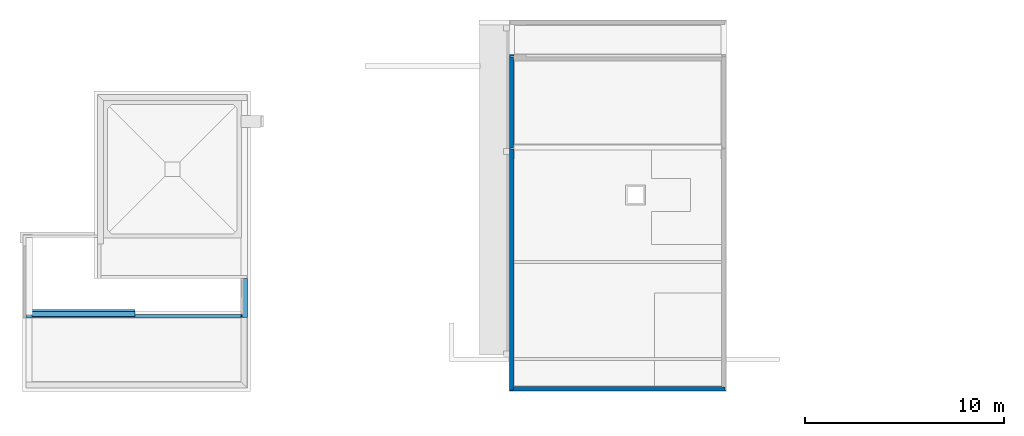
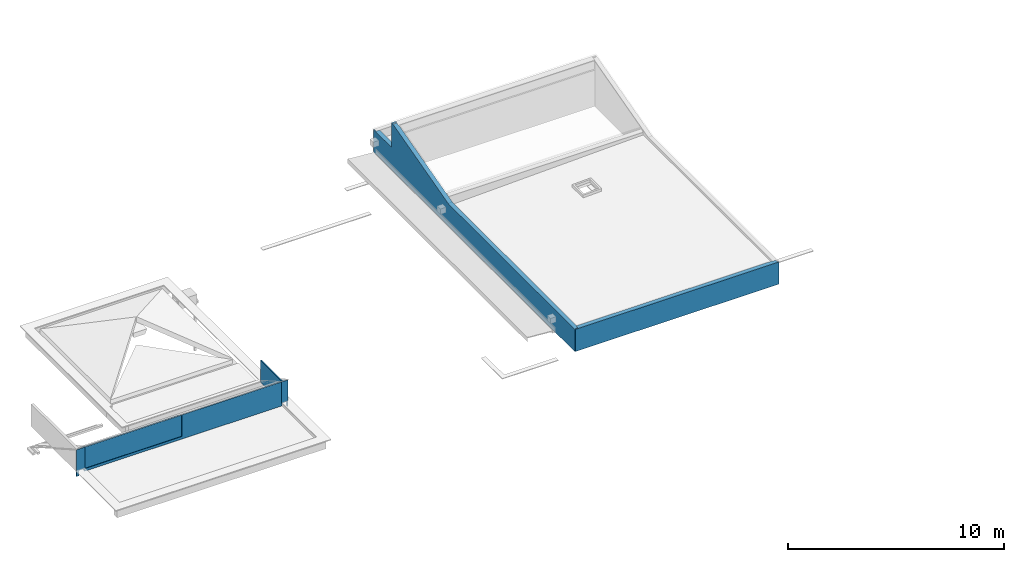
# One storey, part 4 of 8: 5 walls.
"""IFC2X3 building model written with IfcOpenShell, lengths in metres."""

import ifcopenshell
import ifcopenshell.guid

model = None  # the IFC model being written
_history = None  # IfcOwnerHistory: only IFC2X3 demands one
_inside = {}  # id of a spatial element -> (the spatial element, [elements in it])
_under = {}  # id of a project, library or spatial element -> (it, [spatial elements below it])
_declared = {}  # id of a project -> (the project, [libraries it declares])
_typed = {}  # id of a type object -> (the type object, [elements of that type])
_made_of = {}  # id of a material, layer set ... -> (it, [elements and type objects made of it])


def new_model(schema):
    """Start an empty IFC model of exactly this schema.

    Asked for "IFC4X3", IfcOpenShell would pick the latest addendum, in which some entities
    have other attributes; the version numbers below select the first issue.
    IFC2X3 requires an IfcOwnerHistory on every rooted entity: one is made here for all.
    """
    global model, _history
    if schema == "IFC4X3":
        model = ifcopenshell.file(schema_version=(4, 3, 0, 0))
    else:
        model = ifcopenshell.file(schema=schema)
    _inside.clear()
    _under.clear()
    _declared.clear()
    _typed.clear()
    _made_of.clear()
    _history = None
    if model.schema == "IFC2X3":
        org = make("IfcOrganization", Name="unknown")
        user = make(
            "IfcPersonAndOrganization",
            ThePerson=make("IfcPerson", FamilyName="unknown"),
            TheOrganization=org,
        )
        app = make(
            "IfcApplication",
            ApplicationDeveloper=org,
            Version="unknown",
            ApplicationFullName="unknown",
            ApplicationIdentifier="unknown",
        )
        _history = make(
            "IfcOwnerHistory",
            OwningUser=user,
            OwningApplication=app,
            ChangeAction="ADDED",
            CreationDate=0,
        )
    return model


def make(cls, **values):
    """One entity of the class cls with the attributes given. An attribute that is None is left unset."""
    return model.create_entity(
        cls, **{name: value for name, value in values.items() if value is not None}
    )


def entity(cls, *values):
    """Any entity or typed value of the class cls, its attributes in the order of the schema. None: left unset."""
    e = model.create_entity(cls)
    for i, value in enumerate(values):
        if value is not None:
            e[i] = value
    return e


def rooted(cls, **values):
    """An entity with a GlobalId (a new one), such as an element, a storey or a relation."""
    return make(cls, GlobalId=ifcopenshell.guid.new(), OwnerHistory=_history, **values)


def si_unit(unit_type, name, prefix=None):
    """IfcSIUnit, for example si_unit("LENGTHUNIT", "METRE", prefix="MILLI")."""
    return make("IfcSIUnit", UnitType=unit_type, Prefix=prefix, Name=name)


def converted_unit(unit_type, name, factor, base, dimensions=None, offset=None):
    """IfcConversionBasedUnit, such as the inch: factor (a typed value) times the base unit."""
    return make(
        "IfcConversionBasedUnit"
        if offset is None
        else "IfcConversionBasedUnitWithOffset",
        ConversionOffset=offset,
        Dimensions=None
        if dimensions is None
        else entity("IfcDimensionalExponents", *dimensions),
        UnitType=unit_type,
        Name=name,
        ConversionFactor=make(
            "IfcMeasureWithUnit", ValueComponent=factor, UnitComponent=base
        ),
    )


def derived_unit(unit_type, elements):
    """IfcDerivedUnit: a product of units, each with its exponent."""
    return make(
        "IfcDerivedUnit",
        Elements=[
            make("IfcDerivedUnitElement", Unit=unit, Exponent=power)
            for unit, power in elements
        ],
        UnitType=unit_type,
    )


def assignment(units):
    """IfcUnitAssignment: the units of a project."""
    return None if units is None else make("IfcUnitAssignment", Units=units)


def point(xyz):
    """IfcCartesianPoint."""
    return None if xyz is None else make("IfcCartesianPoint", Coordinates=xyz)


def direction(xyz):
    """IfcDirection."""
    return None if xyz is None else make("IfcDirection", DirectionRatios=xyz)


def frame(location, z_axis=None, x_axis=None):
    """IfcAxis2Placement3D, a coordinate frame: its origin and axes. An axis left out is left unset."""
    return make(
        "IfcAxis2Placement3D",
        Location=point(location),
        Axis=direction(z_axis),
        RefDirection=direction(x_axis),
    )


def origin():
    """The frame at (0, 0, 0) with its axes left unset."""
    return frame((0.0, 0.0, 0.0))


def place(relative_to, where):
    """IfcLocalPlacement: puts the frame where relative to a parent placement (None: the world)."""
    return make(
        "IfcLocalPlacement", PlacementRelTo=relative_to, RelativePlacement=where
    )


def context(
    kind, dimensions, precision=None, world=None, true_north=None, identifier=None
):
    """IfcGeometricRepresentationContext, for example the 3D "Model" context."""
    return make(
        "IfcGeometricRepresentationContext",
        ContextIdentifier=identifier,
        ContextType=kind,
        CoordinateSpaceDimension=dimensions,
        Precision=precision,
        WorldCoordinateSystem=world,
        TrueNorth=true_north,
    )


def subcontext(parent, identifier, kind, view, scale=None):
    """IfcGeometricRepresentationSubContext, for example "Body" below "Model"."""
    return make(
        "IfcGeometricRepresentationSubContext",
        ContextIdentifier=identifier,
        ContextType=kind,
        ParentContext=parent,
        TargetScale=scale,
        TargetView=view,
    )


def project(units=None, contexts=None):
    """IfcProject with its units and contexts."""
    return rooted(
        "IfcProject",
        Name="project",
        RepresentationContexts=contexts,
        UnitsInContext=assignment(units),
    )


def spatial(cls, under=None, at=None, **own):
    """A site, building, storey or space (cls), placed at a placement, below another one or the project."""
    s = rooted(cls, ObjectPlacement=at, **own)
    if under is not None:
        _under.setdefault(under.id(), (under, []))[1].append(s)
    return s


def faces_of(points, faces, orient=None, outer=None):
    """IfcFace entities. A face is a list of loops; a loop is a list of indices into points, from 0.

    orient and outer hold one flag for each loop. By default every Orientation is true, the
    first loop of a face is its IfcFaceOuterBound and the others are IfcFaceBound.
    """
    made = []
    for i, loops in enumerate(faces):
        bounds = []
        for j, loop in enumerate(loops):
            is_outer = j == 0 if outer is None else outer[i][j]
            bounds.append(
                make(
                    "IfcFaceOuterBound" if is_outer else "IfcFaceBound",
                    Bound=make("IfcPolyLoop", Polygon=[points[k] for k in loop]),
                    Orientation=True if orient is None else orient[i][j],
                )
            )
        made.append(make("IfcFace", Bounds=bounds))
    return made


def faceted_brep(points, faces, orient=None, outer=None, voids=None):
    """IfcFacetedBrep: a solid bounded by flat faces; with voids (closed shells), ...WithVoids."""
    shared = [point(p) for p in points]
    hull = make("IfcClosedShell", CfsFaces=faces_of(shared, faces, orient, outer))
    if voids is None:
        return make("IfcFacetedBrep", Outer=hull)
    return make(
        "IfcFacetedBrepWithVoids",
        Outer=hull,
        Voids=[
            make(cls, CfsFaces=faces_of(shared, fs, o, b)) for cls, fs, o, b in voids
        ],
    )


def shape(context_of_items, identifier, shape_type, items):
    """IfcShapeRepresentation: the items that make up one representation, for example the "Body"."""
    return make(
        "IfcShapeRepresentation",
        ContextOfItems=context_of_items,
        RepresentationIdentifier=identifier,
        RepresentationType=shape_type,
        Items=items,
    )


def made_of(thing, what):
    """Note that an element or type object is made of a material, layer set ...; save() writes the relation."""
    if what is not None:
        _made_of.setdefault(what.id(), (what, []))[1].append(thing)
    return thing


def type_object(cls, material=None, **own):
    """A type object (cls), such as IfcWallType, which elements share."""
    return made_of(rooted(cls, **own), material)


def element(
    cls,
    number,
    at=None,
    inside=None,
    cuts=None,
    type_object=None,
    material=None,
    context=None,
    identifier="Body",
    shape_type=None,
    held_by="IfcProductDefinitionShape",
    body=None,
    shapes=None,
    **own,
):
    """One element of the class cls, such as IfcWall. Its Tag is "e" and its number.

    at: its placement. inside: the storey or other place that contains it. cuts: it is an
    opening in that element (IfcRelVoidsElement). A single representation is given by context,
    identifier, shape_type and body (its items); several are given by shapes. held_by: the class
    of the entity that holds the representations. save() writes the other relations.
    """
    e = rooted(cls, Tag="e%d" % number, ObjectPlacement=at, **own)
    if body is not None:
        shapes = [shape(context, identifier, shape_type, body)]
    if shapes is not None:
        e.Representation = make(held_by, Representations=shapes)
    if inside is not None:
        _inside.setdefault(inside.id(), (inside, []))[1].append(e)
    if cuts is not None:
        rooted(
            "IfcRelVoidsElement", RelatingBuildingElement=cuts, RelatedOpeningElement=e
        )
    if type_object is not None:
        _typed.setdefault(type_object.id(), (type_object, []))[1].append(e)
    return made_of(e, material)


def aggregate(whole, parts):
    """IfcRelAggregates: a whole, such as a stair, and the parts it consists of."""
    return rooted("IfcRelAggregates", RelatingObject=whole, RelatedObjects=parts)


def save(model, path):
    """Write the relations noted so far, then the file.

    IfcRelAggregates (storeys below a building ...), IfcRelContainedInSpatialStructure (elements
    in a storey), IfcRelDefinesByType, IfcRelAssociatesMaterial and IfcRelDeclares: one each for
    every whole, place, type object, material and project.
    """
    for whole, parts in _under.values():
        aggregate(whole, parts)
    for where, things in _inside.values():
        rooted(
            "IfcRelContainedInSpatialStructure",
            RelatedElements=things,
            RelatingStructure=where,
        )
    for kind, things in _typed.values():
        rooted("IfcRelDefinesByType", RelatedObjects=things, RelatingType=kind)
    for what, things in _made_of.values():
        rooted("IfcRelAssociatesMaterial", RelatedObjects=things, RelatingMaterial=what)
    for by, libraries in _declared.values():
        rooted("IfcRelDeclares", RelatingContext=by, RelatedDefinitions=libraries)
    model.write(path)


model = new_model("IFC2X3")

# Units and contexts
model_context = context("Model", 3, precision=1e-05, world=origin(), true_north=direction((6.123031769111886e-17, 1.0)))
body_context = subcontext(model_context, "Body", "Model", "MODEL_VIEW")
ifc_project = project(units=[si_unit("LENGTHUNIT", "METRE"), si_unit("AREAUNIT", "SQUARE_METRE"), si_unit("VOLUMEUNIT", "CUBIC_METRE"), converted_unit("PLANEANGLEUNIT", "DEGREE", entity("IfcRatioMeasure", 0.017453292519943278), si_unit("PLANEANGLEUNIT", "RADIAN"), dimensions=[0, 0, 0, 0, 0, 0, 0]), si_unit("MASSUNIT", "GRAM", prefix="KILO"), derived_unit("MASSDENSITYUNIT", [(si_unit("MASSUNIT", "GRAM", prefix="KILO"), 1), (si_unit("LENGTHUNIT", "METRE"), -3)]), derived_unit("MOMENTOFINERTIAUNIT", [(si_unit("LENGTHUNIT", "METRE"), 4)]), si_unit("TIMEUNIT", "SECOND"), si_unit("FREQUENCYUNIT", "HERTZ"), si_unit("THERMODYNAMICTEMPERATUREUNIT", "DEGREE_CELSIUS"), derived_unit("THERMALTRANSMITTANCEUNIT", [(si_unit("MASSUNIT", "GRAM", prefix="KILO"), 1), (si_unit("THERMODYNAMICTEMPERATUREUNIT", "KELVIN"), -1), (si_unit("TIMEUNIT", "SECOND"), -3)]), derived_unit("THERMALCONDUCTANCEUNIT", [(si_unit("MASSUNIT", "GRAM", prefix="KILO"), 1), (si_unit("LENGTHUNIT", "METRE"), 1), (si_unit("THERMODYNAMICTEMPERATUREUNIT", "KELVIN"), -1), (si_unit("TIMEUNIT", "SECOND"), -3)]), derived_unit("VOLUMETRICFLOWRATEUNIT", [(si_unit("LENGTHUNIT", "METRE"), 3), (si_unit("TIMEUNIT", "SECOND"), -1)]), derived_unit("MASSFLOWRATEUNIT", [(si_unit("MASSUNIT", "GRAM", prefix="KILO"), 1), (si_unit("TIMEUNIT", "SECOND"), -1)]), derived_unit("ROTATIONALFREQUENCYUNIT", [(si_unit("TIMEUNIT", "SECOND"), -1)]), si_unit("ELECTRICCURRENTUNIT", "AMPERE"), si_unit("ELECTRICVOLTAGEUNIT", "VOLT"), si_unit("POWERUNIT", "WATT"), si_unit("FORCEUNIT", "NEWTON", prefix="KILO"), si_unit("ILLUMINANCEUNIT", "LUX"), si_unit("LUMINOUSFLUXUNIT", "LUMEN"), si_unit("LUMINOUSINTENSITYUNIT", "CANDELA"), derived_unit("USERDEFINED", [(si_unit("MASSUNIT", "GRAM", prefix="KILO"), -1), (si_unit("LENGTHUNIT", "METRE"), -2), (si_unit("TIMEUNIT", "SECOND"), 3), (si_unit("LUMINOUSFLUXUNIT", "LUMEN"), 1)]), derived_unit("USERDEFINED", [(si_unit("MASSUNIT", "GRAM", prefix="KILO"), 1), (si_unit("LENGTHUNIT", "METRE"), 3), (si_unit("TIMEUNIT", "SECOND"), -3), (si_unit("ELECTRICCURRENTUNIT", "AMPERE"), -2)]), derived_unit("USERDEFINED", [(si_unit("LENGTHUNIT", "METRE"), 2), (si_unit("TIMEUNIT", "SECOND"), -2)]), derived_unit("SOUNDPOWERUNIT", [(si_unit("MASSUNIT", "GRAM", prefix="KILO"), 1), (si_unit("LENGTHUNIT", "METRE"), 2), (si_unit("TIMEUNIT", "SECOND"), -3)]), derived_unit("SOUNDPRESSUREUNIT", [(si_unit("MASSUNIT", "GRAM", prefix="KILO"), 1), (si_unit("LENGTHUNIT", "METRE"), -1), (si_unit("TIMEUNIT", "SECOND"), -2)]), derived_unit("LINEARVELOCITYUNIT", [(si_unit("LENGTHUNIT", "METRE"), 1), (si_unit("TIMEUNIT", "SECOND"), -1)]), si_unit("PRESSUREUNIT", "PASCAL"), derived_unit("USERDEFINED", [(si_unit("LENGTHUNIT", "METRE"), -2), (si_unit("MASSUNIT", "GRAM", prefix="KILO"), 1), (si_unit("TIMEUNIT", "SECOND"), -2)]), derived_unit("LINEARFORCEUNIT", [(si_unit("MASSUNIT", "GRAM", prefix="KILO"), 1), (si_unit("LENGTHUNIT", "METRE"), 1), (si_unit("TIMEUNIT", "SECOND"), -2), (si_unit("LENGTHUNIT", "METRE"), -1)]), derived_unit("PLANARFORCEUNIT", [(si_unit("MASSUNIT", "GRAM", prefix="KILO"), 1), (si_unit("LENGTHUNIT", "METRE"), 1), (si_unit("TIMEUNIT", "SECOND"), -2), (si_unit("LENGTHUNIT", "METRE"), -2)]), derived_unit("SPECIFICHEATCAPACITYUNIT", [(si_unit("LENGTHUNIT", "METRE"), 2), (si_unit("TIMEUNIT", "SECOND"), -2), (si_unit("THERMODYNAMICTEMPERATUREUNIT", "KELVIN"), -1)]), derived_unit("VAPORPERMEABILITYUNIT", [(si_unit("TIMEUNIT", "SECOND"), 1), (si_unit("LENGTHUNIT", "METRE"), -1)]), derived_unit("DYNAMICVISCOSITYUNIT", [(si_unit("MASSUNIT", "GRAM", prefix="KILO"), 1), (si_unit("LENGTHUNIT", "METRE"), -1), (si_unit("TIMEUNIT", "SECOND"), -1)]), derived_unit("THERMALEXPANSIONCOEFFICIENTUNIT", [(si_unit("THERMODYNAMICTEMPERATUREUNIT", "KELVIN"), -1)])], contexts=[model_context])

# Site, building, storey
site_placement = place(None, origin())
site = spatial("IfcSite", under=ifc_project, at=site_placement, Name="Default", CompositionType="ELEMENT")
building_placement = place(site_placement, origin())
building = spatial("IfcBuilding", under=site, at=building_placement, CompositionType="ELEMENT")
storey_placement = place(building_placement, frame((0.0, 0.0, 6.059999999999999)))
storey = spatial("IfcBuildingStorey", under=building, at=storey_placement, Name="TOITURE", CompositionType="ELEMENT", Elevation=6.059999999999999)

# Walls
wall_type_1 = type_object("IfcWallType", Name="MurExt-019", PredefinedType="NOTDEFINED")
wall_1_placement = place(storey_placement, frame((117.38075227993, 11.347209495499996, 0.29000000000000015)))
element("IfcWall", 1, at=wall_1_placement, inside=storey, type_object=wall_type_1, Name="MurExt-019 807187:MurExt-019 807187", ObjectType="MurExt-019 807187:MurExt-019 807187", context=body_context, shape_type="Brep", body=[
    faceted_brep([(0.0, 0.03700000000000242, 0.0), (5.179999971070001, 0.03700000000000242, 0.0), (5.179999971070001, 0.0, 0.0), (0.0, 0.0, 0.0), (0.0, 0.03700000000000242, 1.1494408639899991), (5.179999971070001, 0.03700000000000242, 1.1494408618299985), (0.0, 0.0, 1.1704679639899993), (5.179999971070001, 0.0, 1.1704679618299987)], [[[0, 1, 2, 3]], [[1, 0, 4, 5]], [[0, 3, 6, 4]], [[3, 2, 7, 6]], [[2, 1, 5, 7]], [[5, 4, 6, 7]]]),
    faceted_brep([(0.0, 0.07200000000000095, 0.0), (5.179999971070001, 0.07200000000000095, 0.0), (5.179999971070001, 0.03700000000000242, 0.0), (0.0, 0.03700000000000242, 0.0), (0.0, 0.07200000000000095, 1.1295503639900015), (5.179999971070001, 0.07200000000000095, 1.1295503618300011), (0.0, 0.03700000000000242, 1.1494408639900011), (5.179999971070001, 0.03700000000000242, 1.1494408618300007)], [[[0, 1, 2, 3]], [[1, 0, 4, 5]], [[0, 3, 6, 4]], [[3, 2, 7, 6]], [[2, 1, 5, 7]], [[5, 4, 6, 7]]]),
    faceted_brep([(0.0, 0.1120000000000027, 0.0), (5.179999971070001, 0.1120000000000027, 0.0), (5.179999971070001, 0.07200000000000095, 0.0), (0.0, 0.07200000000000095, 0.0), (0.0, 0.1120000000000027, 1.1068183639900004), (5.179999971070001, 0.1120000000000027, 1.1068183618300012), (0.0, 0.07200000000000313, 1.1295503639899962), (5.179999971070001, 0.07200000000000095, 1.1295503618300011)], [[[0, 1, 2, 3]], [[1, 0, 4, 5]], [[0, 3, 6, 4]], [[3, 2, 7, 6]], [[2, 1, 5, 7]], [[5, 4, 6, 7]]]),
    faceted_brep([(0.0, 0.2570000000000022, 0.0), (5.179999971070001, 0.2570000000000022, 0.0), (5.179999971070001, 0.1120000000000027, 0.0), (0.0, 0.1120000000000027, 0.0), (0.0, 0.2570000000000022, 0.9544148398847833), (5.179999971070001, 0.2570000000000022, 0.9544148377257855), (0.0, 0.1120000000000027, 1.1068183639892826), (0.0, 0.2399999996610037, 1.0340759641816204), (0.0, 0.23999999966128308, 0.9640759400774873), (5.179999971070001, 0.1120000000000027, 1.1068183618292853), (5.179999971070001, 0.23999999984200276, 0.9640759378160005), (5.179999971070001, 0.23999999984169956, 1.034075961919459), (0.0, 0.2399999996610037, 1.0340759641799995), (0.0, 0.2399999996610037, 0.9640759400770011)], [[[0, 1, 2, 3]], [[1, 0, 4, 5]], [[0, 3, 6, 7, 8, 4]], [[3, 2, 9, 6]], [[2, 1, 5, 10, 11, 9]], [[12, 11, 10, 8]], [[13, 10, 5, 4]], [[11, 7, 6, 9]]]),
    faceted_brep([(0.0, 0.26900000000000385, 0.0), (5.179999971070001, 0.26900000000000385, 0.0), (5.179999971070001, 0.2570000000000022, 0.0), (0.0, 0.2570000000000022, 0.0), (0.0, 0.26900000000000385, 0.9475952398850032), (5.179999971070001, 0.26900000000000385, 0.9475952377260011), (0.0, 0.2570000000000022, 0.9544148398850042), (5.179999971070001, 0.2570000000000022, 0.9544148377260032)], [[[0, 1, 2, 3]], [[1, 0, 4, 5]], [[0, 3, 6, 4]], [[3, 2, 7, 6]], [[2, 1, 5, 7]], [[5, 4, 6, 7]]]),
    faceted_brep([(0.0, 0.3170000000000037, 0.0), (5.179999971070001, 0.3170000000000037, 0.0), (5.179999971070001, 0.26900000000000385, 0.0), (0.0, 0.26900000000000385, 0.0), (0.0, 0.3170000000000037, 0.9203168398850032), (5.179999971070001, 0.3170000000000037, 0.9203168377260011), (0.0, 0.269000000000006, 0.9475952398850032), (5.179999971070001, 0.26900000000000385, 0.9475952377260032)], [[[0, 1, 2, 3]], [[1, 0, 4, 5]], [[0, 3, 6, 4]], [[3, 2, 7, 6]], [[2, 1, 5, 7]], [[5, 4, 6, 7]]]),
    faceted_brep([(0.0, 0.33000000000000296, 0.0), (5.179999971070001, 0.33000000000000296, 0.0), (5.179999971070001, 0.3170000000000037, 0.0), (0.0, 0.3170000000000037, 0.0), (0.0, 0.33000000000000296, 0.9129289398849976), (5.179999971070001, 0.33000000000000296, 0.9129289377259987), (0.0, 0.3170000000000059, 0.9203168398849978), (5.179999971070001, 0.3170000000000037, 0.9203168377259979)], [[[0, 1, 2, 3]], [[1, 0, 4, 5]], [[0, 3, 6, 4]], [[3, 2, 7, 6]], [[2, 1, 5, 7]], [[5, 4, 6, 7]]]),
])
wall_type_2 = type_object("IfcWallType", Name="MurExt-019", PredefinedType="NOTDEFINED")
wall_2_placement = place(storey_placement, frame((141.40075228, 7.587209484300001, 0.71), z_axis=(0.0, 0.0, 1.0), x_axis=(0.0, 1.0, 0.0)))
element("IfcWall", 2, at=wall_2_placement, inside=storey, type_object=wall_type_2, Name="MurExt-019 812434:MurExt-019 812434", ObjectType="MurExt-019 812434:MurExt-019 812434", context=body_context, shape_type="Brep", body=[
    faceted_brep([(0.0, -0.021999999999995, 0.0), (0.0, 0.0, 0.0), (18.628, 0.0, 0.0), (18.628, -0.021999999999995, 0.0), (0.0, 0.0, 1.2500000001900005), (11.678518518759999, 0.0, 1.2500000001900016), (16.93, 0.0, 2.667900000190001), (16.93, 0.0, 1.2500000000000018), (18.628, 0.0, 1.2500000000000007), (0.0, -0.021999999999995, 1.2500000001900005), (18.628, -0.021999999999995, 1.2500000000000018), (18.587999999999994, -0.021999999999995, 1.2500000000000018), (16.93, -0.021999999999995, 1.2500000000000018), (16.930000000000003, -0.021999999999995, 2.667900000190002), (11.678518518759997, -0.021999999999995, 1.2500000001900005), (0.021999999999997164, -0.021999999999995, 1.2500000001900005)], [[[0, 1, 2, 3]], [[2, 1, 4, 5, 6, 7, 8]], [[1, 0, 9, 4]], [[0, 3, 10, 11, 12, 13, 14, 15, 9]], [[7, 12, 11, 10, 8]], [[8, 10, 3, 2]], [[14, 5, 4, 9, 15]], [[5, 14, 13, 6]], [[12, 7, 6, 13]]]),
    faceted_brep([(18.587999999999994, -0.06200000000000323, 0.0), (0.021999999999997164, -0.06200000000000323, 0.0), (0.02199999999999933, -0.021999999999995, 0.0), (18.587999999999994, -0.021999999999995, 0.0), (0.021999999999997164, -0.021999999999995, 1.2500000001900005), (11.67851851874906, -0.021999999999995, 1.250000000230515), (16.93, -0.021999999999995, 2.667900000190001), (16.93, -0.021999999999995, 1.2500000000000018), (18.587999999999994, -0.021999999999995, 1.2500000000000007), (18.587999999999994, -0.06200000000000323, 1.2500000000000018), (18.442999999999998, -0.06200000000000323, 1.2500000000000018), (16.93, -0.06200000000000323, 1.2500000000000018), (16.930000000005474, -0.06200000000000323, 2.667900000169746), (16.858000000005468, -0.06200000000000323, 2.6484600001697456), (16.818000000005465, -0.06200000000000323, 2.6376600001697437), (11.678518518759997, -0.06200000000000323, 1.2500000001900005), (0.06199999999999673, -0.06200000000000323, 1.2500000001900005), (0.021999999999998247, -0.06200000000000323, 1.2500000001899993)], [[[0, 1, 2, 3]], [[3, 2, 4, 5, 6, 7, 8]], [[1, 0, 9, 10, 11, 12, 13, 14, 15, 16, 17]], [[7, 11, 10, 9, 8]], [[8, 9, 0, 3]], [[17, 4, 2, 1]], [[4, 17, 16, 15, 5]], [[5, 15, 14, 13, 12, 6]], [[11, 7, 6, 12]]]),
    faceted_brep([(0.06199999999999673, -0.06200000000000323, 0.0), (18.442999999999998, -0.06200000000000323, 0.0), (18.442999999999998, -0.20699999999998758, 0.0), (0.06199999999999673, -0.20699999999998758, 0.0), (12.181999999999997, -0.06200000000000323, 1.330000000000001), (12.181999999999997, -0.06200000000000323, 0.050000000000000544), (12.221999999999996, -0.06200000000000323, 0.050000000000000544), (12.221999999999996, -0.06200000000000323, 1.330000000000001), (0.06199999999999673, -0.06200000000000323, 1.2500000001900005), (11.678518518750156, -0.06200000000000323, 1.2500000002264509), (16.817999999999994, -0.06200000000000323, 2.63766000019), (16.817999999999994, -0.06200000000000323, 0.050000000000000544), (16.857999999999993, -0.06200000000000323, 0.050000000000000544), (16.858, -0.06200000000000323, 2.6484600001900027), (16.93, -0.06200000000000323, 2.667900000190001), (16.93, -0.06200000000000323, 1.2500000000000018), (18.442999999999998, -0.06200000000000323, 1.2500000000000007), (12.181999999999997, -0.20699999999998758, 0.050000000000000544), (12.181999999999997, -0.20699999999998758, 1.330000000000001), (12.221999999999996, -0.20699999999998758, 1.330000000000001), (12.221999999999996, -0.20699999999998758, 0.050000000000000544), (18.442999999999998, -0.20699999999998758, 1.2500000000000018), (18.430999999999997, -0.20699999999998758, 1.2500000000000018), (16.93, -0.20699999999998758, 1.2500000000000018), (16.930000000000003, -0.20699999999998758, 2.667900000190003), (16.857999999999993, -0.20699999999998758, 2.6484600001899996), (16.857999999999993, -0.20699999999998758, 0.050000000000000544), (16.817999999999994, -0.20699999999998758, 0.050000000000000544), (16.818000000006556, -0.20699999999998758, 2.637660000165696), (16.673000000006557, -0.20699999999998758, 2.598510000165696), (11.678518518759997, -0.20699999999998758, 1.2500000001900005), (0.20699999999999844, -0.20699999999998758, 1.2500000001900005), (0.06199999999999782, -0.20699999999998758, 1.2500000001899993)], [[[0, 1, 2, 3]], [[4, 5, 6, 7], [1, 0, 8, 9, 10, 11, 12, 13, 14, 15, 16]], [[17, 18, 19, 20], [3, 2, 21, 22, 23, 24, 25, 26, 27, 28, 29, 30, 31, 32]], [[17, 5, 4, 18]], [[18, 4, 7, 19]], [[19, 7, 6, 20]], [[5, 17, 20, 6]], [[15, 23, 22, 21, 16]], [[16, 21, 2, 1]], [[32, 8, 0, 3]], [[8, 32, 31, 30, 9]], [[9, 30, 29, 28, 10]], [[10, 28, 27, 11]], [[11, 27, 26, 12]], [[12, 26, 25, 13]], [[13, 25, 24, 14]], [[23, 15, 14, 24]]], outer=[[True], [False, True], [False, True], [True], [True], [True], [True], [True], [True], [True], [True], [True], [True], [True], [True], [True], [True]]),
    faceted_brep([(0.20699999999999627, -0.20699999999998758, 0.0), (18.430999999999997, -0.20699999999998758, 0.0), (18.430999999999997, -0.21899999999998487, 0.0), (0.20699999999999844, -0.21899999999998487, 0.0), (12.366999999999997, -0.20699999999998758, 1.330000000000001), (12.181999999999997, -0.20699999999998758, 1.330000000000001), (12.181999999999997, -0.20699999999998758, 0.050000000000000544), (12.366999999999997, -0.20699999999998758, 0.050000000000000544), (0.20699999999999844, -0.20699999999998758, 1.2500000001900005), (11.67851851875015, -0.20699999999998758, 1.2500000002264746), (16.673, -0.20699999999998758, 2.59851000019), (16.673, -0.20699999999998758, 0.050000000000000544), (16.857999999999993, -0.20699999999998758, 0.050000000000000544), (16.858, -0.20699999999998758, 2.6484600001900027), (16.93, -0.20699999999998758, 2.667900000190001), (16.93, -0.20699999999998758, 1.2500000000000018), (18.430999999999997, -0.20699999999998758, 1.2500000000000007), (12.181999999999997, -0.21899999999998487, 1.330000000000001), (12.366999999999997, -0.21899999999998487, 1.330000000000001), (12.366999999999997, -0.21899999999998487, 0.050000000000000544), (12.181999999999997, -0.21899999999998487, 0.050000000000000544), (18.430999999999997, -0.21899999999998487, 1.2500000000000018), (18.419999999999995, -0.21899999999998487, 1.2500000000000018), (16.93, -0.21899999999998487, 1.2500000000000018), (16.930000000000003, -0.21899999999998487, 2.667900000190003), (16.857999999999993, -0.21899999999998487, 2.6484600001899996), (16.857999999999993, -0.21899999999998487, 0.050000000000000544), (16.673, -0.21899999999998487, 0.050000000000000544), (16.673000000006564, -0.21899999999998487, 2.5985100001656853), (16.613000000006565, -0.21899999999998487, 2.582310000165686), (11.678518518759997, -0.21899999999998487, 1.2500000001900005), (0.21899999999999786, -0.21899999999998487, 1.2500000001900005), (0.20699999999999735, -0.21899999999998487, 1.2500000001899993), (16.857999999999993, -0.21900000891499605, 0.050000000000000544)], [[[0, 1, 2, 3]], [[4, 5, 6, 7], [1, 0, 8, 9, 10, 11, 12, 13, 14, 15, 16]], [[17, 18, 19, 20], [3, 2, 21, 22, 23, 24, 25, 26, 27, 28, 29, 30, 31, 32]], [[17, 5, 4, 18]], [[18, 4, 7, 19]], [[19, 7, 6, 20]], [[5, 17, 20, 6]], [[15, 23, 22, 21, 16]], [[16, 21, 2, 1]], [[32, 8, 0, 3]], [[8, 32, 31, 30, 9]], [[9, 30, 29, 28, 10]], [[10, 28, 27, 11]], [[11, 27, 33, 12]], [[12, 26, 25, 13]], [[13, 25, 24, 14]], [[23, 15, 14, 24]]], outer=[[True], [False, True], [False, True], [True], [True], [True], [True], [True], [True], [True], [True], [True], [True], [True], [True], [True], [True]]),
    faceted_brep([(16.817999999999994, -0.22999999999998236, 0.0), (12.181999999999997, -0.22999999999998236, 0.0), (12.181999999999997, -0.21899999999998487, 0.0), (16.817999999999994, -0.21899999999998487, 0.0), (12.181999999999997, -0.22999999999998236, 0.050000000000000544), (12.181999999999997, -0.21899999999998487, 0.050000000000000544), (16.817999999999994, -0.21900000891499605, 0.050000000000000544), (16.817999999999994, -0.22999999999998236, 0.050000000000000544), (16.817999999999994, -0.21899999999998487, 0.050000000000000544), (16.613, -0.21899999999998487, 0.050000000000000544), (16.613, -0.22999999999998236, 0.050000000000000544), (16.613, -0.21899999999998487, 2.5823100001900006), (16.613, -0.22999999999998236, 2.5823100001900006), (11.678518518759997, -0.21899999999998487, 1.2500000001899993), (11.67851851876, -0.22999999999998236, 1.2500000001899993), (0.21899999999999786, -0.21899999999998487, 1.2500000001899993), (0.21899999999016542, -0.22999999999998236, 1.2500000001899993), (0.21899994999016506, -0.21899999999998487, 0.7601408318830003), (0.21899994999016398, -0.22999999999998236, 0.7605258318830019), (12.160000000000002, -0.21899999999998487, 0.7601408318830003), (12.160000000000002, -0.22999999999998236, 0.7605258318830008), (12.160000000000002, -0.21899999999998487, 1.330000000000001), (12.160000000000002, -0.22999999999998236, 1.330000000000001), (12.426999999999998, -0.21899999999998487, 1.330000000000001), (12.426999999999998, -0.22999999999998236, 1.330000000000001), (12.426999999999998, -0.21899999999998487, 0.050000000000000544), (12.426999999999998, -0.22999999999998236, 0.050000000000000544)], [[[0, 1, 2, 3]], [[4, 5, 2, 1]], [[6, 7, 0, 3]], [[7, 8, 9, 10]], [[10, 9, 11, 12]], [[12, 11, 13, 14]], [[14, 13, 15, 16]], [[16, 15, 17, 18]], [[18, 17, 19, 20]], [[20, 19, 21, 22]], [[22, 21, 23, 24]], [[24, 23, 25, 26]], [[5, 4, 26, 25]], [[1, 0, 7, 10, 12, 14, 16, 18, 20, 22, 24, 26, 4]], [[3, 2, 5, 25, 23, 21, 19, 17, 15, 13, 11, 9, 8]]]),
    faceted_brep([(18.419999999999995, -0.21899999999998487, 0.7601408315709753), (16.857999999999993, -0.21899999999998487, 0.7601408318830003), (16.858, -0.21899999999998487, 2.6484600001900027), (16.93, -0.21899999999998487, 2.667900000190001), (16.93, -0.21899999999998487, 1.2500000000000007), (18.419999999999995, -0.21899999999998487, 1.2500000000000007), (16.857999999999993, -0.22999999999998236, 0.7605258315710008), (18.419999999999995, -0.22999999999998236, 0.7605258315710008), (18.419999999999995, -0.22999999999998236, 1.2500000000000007), (16.93, -0.22999999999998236, 1.2500000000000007), (16.930000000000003, -0.22999999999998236, 2.667900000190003), (16.857999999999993, -0.22999999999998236, 2.6484600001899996), (18.419999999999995, -0.21900000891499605, 0.7601408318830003), (16.857999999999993, -0.21899999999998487, 0.7601408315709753), (18.419999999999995, -0.21899999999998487, 0.7601408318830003), (16.857999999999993, -0.21900000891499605, 0.7601408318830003)], [[[0, 1, 2, 3, 4, 5]], [[6, 7, 8, 9, 10, 11]], [[12, 7, 6, 13]], [[7, 14, 5, 8]], [[8, 5, 4, 9]], [[9, 4, 3, 10]], [[10, 3, 2, 11]], [[15, 6, 11, 2]]]),
])
wall_type_3 = type_object("IfcWallType", Name="MurExt-020", PredefinedType="NOTDEFINED")
wall_3_placement = place(storey_placement, frame((141.40075228, 7.587209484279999, 0.71)))
element("IfcWall", 3, at=wall_3_placement, inside=storey, type_object=wall_type_3, Name="MurExt-020 816982:MurExt-020 816982", ObjectType="MurExt-020 816982:MurExt-020 816982", context=body_context, shape_type="Brep", body=[
    faceted_brep([(10.9, 0.02200000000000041, 0.0), (10.9, 0.0, 0.0), (0.021999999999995, 0.0, 0.0), (0.021999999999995, 0.02200000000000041, 0.0), (10.9, 0.0, 1.2500000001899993), (0.021999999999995, 0.0, 1.2500000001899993), (10.9, 0.02200000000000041, 1.2500000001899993), (0.021999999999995, 0.02200000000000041, 1.2500000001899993), (0.06200000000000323, 0.02200000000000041, 1.2500000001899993), (10.877999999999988, 0.02200000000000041, 1.2500000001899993)], [[[0, 1, 2, 3]], [[2, 1, 4, 5]], [[1, 0, 6, 4]], [[0, 3, 7, 8, 9, 6]], [[7, 5, 4, 6, 9, 8]], [[5, 7, 3, 2]]]),
    faceted_brep([(0.06200000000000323, 0.06200000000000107, 0.0), (10.877999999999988, 0.06200000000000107, 0.0), (10.877999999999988, 0.02200000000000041, 0.0), (0.06200000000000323, 0.02200000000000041, 0.0), (10.877999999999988, 0.02200000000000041, 1.2500000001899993), (0.06200000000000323, 0.02200000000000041, 1.2500000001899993), (0.06200000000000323, 0.06200000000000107, 1.2500000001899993), (0.20699999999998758, 0.06200000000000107, 1.2500000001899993), (10.837999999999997, 0.06200000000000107, 1.2500000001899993), (10.877999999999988, 0.06200000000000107, 1.2500000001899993)], [[[0, 1, 2, 3]], [[3, 2, 4, 5]], [[1, 0, 6, 7, 8, 9]], [[5, 6, 0, 3]], [[9, 4, 2, 1]], [[6, 5, 4, 9, 8, 7]]]),
    faceted_brep([(0.20699999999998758, 0.2070000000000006, 0.0), (10.837999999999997, 0.2070000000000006, 0.0), (10.837999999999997, 0.06200000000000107, 0.0), (0.20699999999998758, 0.06200000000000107, 0.0), (10.837999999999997, 0.06200000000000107, 1.2500000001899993), (0.20699999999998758, 0.06200000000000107, 1.2500000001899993), (0.20699999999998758, 0.2070000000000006, 1.2500000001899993), (0.21899999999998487, 0.2070000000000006, 1.2500000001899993), (10.693000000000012, 0.2070000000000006, 1.2500000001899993), (10.837999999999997, 0.2070000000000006, 1.2500000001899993)], [[[0, 1, 2, 3]], [[3, 2, 4, 5]], [[1, 0, 6, 7, 8, 9]], [[5, 6, 0, 3]], [[9, 4, 2, 1]], [[6, 5, 4, 9, 8, 7]]]),
    faceted_brep([(0.21899999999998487, 0.2190000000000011, 0.0), (10.693000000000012, 0.2190000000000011, 0.0), (10.693000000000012, 0.2070000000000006, 0.0), (0.21899999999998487, 0.2070000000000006, 0.0), (10.693000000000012, 0.2070000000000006, 1.2500000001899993), (0.21899999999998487, 0.2070000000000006, 1.2500000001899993), (0.21899999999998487, 0.2190000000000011, 1.2500000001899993), (0.22999999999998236, 0.2190000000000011, 1.2500000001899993), (10.681000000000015, 0.2190000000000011, 1.2500000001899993), (10.693000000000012, 0.2190000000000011, 1.2500000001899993)], [[[0, 1, 2, 3]], [[3, 2, 4, 5]], [[1, 0, 6, 7, 8, 9]], [[5, 6, 0, 3]], [[9, 4, 2, 1]], [[6, 5, 4, 9, 8, 7]]]),
    faceted_brep([(0.22999999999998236, 0.2190000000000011, 1.2500000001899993), (0.22999999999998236, 0.2190000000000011, 0.7605258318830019), (10.681000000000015, 0.2190000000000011, 1.12631083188), (10.681000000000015, 0.2190000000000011, 1.2500000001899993), (0.22999999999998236, 0.2300000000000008, 0.7605258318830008), (0.22999999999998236, 0.2300000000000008, 1.2500000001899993), (10.681000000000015, 0.2300000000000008, 1.2500000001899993), (10.681000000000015, 0.2300000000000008, 1.126310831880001), (10.681000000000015, 0.2189999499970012, 1.12631083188), (0.22999999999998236, 0.2189999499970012, 0.7605258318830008)], [[[0, 1, 2, 3]], [[4, 5, 6, 7]], [[0, 5, 4, 1]], [[5, 0, 3, 6]], [[6, 3, 8, 7]], [[9, 4, 7, 2]]]),
])
wall_type_4 = type_object("IfcWallType", Name="zz", PredefinedType="NOTDEFINED")
wall_4_placement = place(storey_placement, frame((127.88075228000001, 11.277209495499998, 0.29000000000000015), z_axis=(0.0, 0.0, 1.0), x_axis=(0.0, 1.0, 0.0)))
element("IfcWall", 4, at=wall_4_placement, inside=storey, type_object=wall_type_4, Name="zz 839115:zz 839115", ObjectType="zz 839115:zz 839115", context=body_context, shape_type="Brep", body=[
    faceted_brep([(1.9699999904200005, -0.3299999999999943, 0.0), (0.0, -0.3299999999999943, 0.0), (0.0, -0.2929999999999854, 0.0), (1.9699999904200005, -0.2929999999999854, 0.0), (1.9699999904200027, -0.3299999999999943, 0.09069796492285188), (0.0, -0.3299999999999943, 1.2102489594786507), (1.9699999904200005, -0.2929999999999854, 0.09069796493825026), (0.0, -0.2929999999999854, 1.2102489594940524)], [[[0, 1, 2, 3]], [[1, 0, 4, 5]], [[0, 3, 6, 4]], [[3, 2, 7, 6]], [[2, 1, 5, 7]], [[5, 4, 6, 7]]]),
    faceted_brep([(1.9699999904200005, -0.2929999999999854, 0.0), (0.0, -0.2929999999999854, 0.0), (0.0, -0.25799999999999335, 0.0), (1.9699999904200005, -0.25799999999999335, 0.0), (1.9699999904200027, -0.2929999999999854, 0.09069796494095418), (0.0, -0.2929999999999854, 1.2102489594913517), (1.9699999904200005, -0.25799999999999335, 0.09069796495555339), (0.0, -0.25799999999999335, 1.210248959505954)], [[[0, 1, 2, 3]], [[1, 0, 4, 5]], [[0, 3, 6, 4]], [[3, 2, 7, 6]], [[2, 1, 5, 7]], [[5, 4, 6, 7]]]),
    faceted_brep([(1.9699999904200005, -0.25799999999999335, 0.0), (0.0, -0.25799999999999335, 0.0), (0.0, -0.21800000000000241, 0.0), (1.9699999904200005, -0.21800000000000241, 0.0), (1.9699999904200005, -0.25799999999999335, 0.09069796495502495), (0.0, -0.25799999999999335, 1.210248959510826), (1.9699999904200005, -0.21800000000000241, 0.09069796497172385), (0.0, -0.21800000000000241, 1.210248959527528)], [[[0, 1, 2, 3]], [[1, 0, 4, 5]], [[0, 3, 6, 4]], [[3, 2, 7, 6]], [[2, 1, 5, 7]], [[5, 4, 6, 7]]]),
    faceted_brep([(1.9699999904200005, -0.21800000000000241, 0.0), (0.0, -0.21800000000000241, 0.0), (0.0, -0.07299999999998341, 0.0), (1.9699999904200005, -0.07299999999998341, 0.0), (1.9699999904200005, -0.21800000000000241, 0.09069796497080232), (0.0, -0.21800000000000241, 1.2102489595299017), (1.9699999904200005, -0.07299999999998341, 0.09069796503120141), (0.0, -0.07299999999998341, 1.2102489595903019)], [[[0, 1, 2, 3]], [[1, 0, 4, 5]], [[0, 3, 6, 4]], [[3, 2, 7, 6]], [[2, 1, 5, 7]], [[5, 4, 6, 7]]]),
    faceted_brep([(1.9699999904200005, -0.07299999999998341, 0.0), (0.0, -0.07299999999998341, 0.0), (0.0, -0.060999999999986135, 0.0), (1.9699999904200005, -0.060999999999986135, 0.0), (1.9699999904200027, -0.07299999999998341, 0.09069796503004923), (0.0, -0.07299999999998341, 1.2102489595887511), (1.9699999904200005, -0.060999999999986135, 0.09069796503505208), (0.0, -0.060999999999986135, 1.2102489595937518)], [[[0, 1, 2, 3]], [[1, 0, 4, 5]], [[0, 3, 6, 4]], [[3, 2, 7, 6]], [[2, 1, 5, 7]], [[5, 4, 6, 7]]]),
    faceted_brep([(0.0, -0.060999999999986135, 1.2499999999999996), (1.9699999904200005, -0.060999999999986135, 1.2499999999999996), (1.9699999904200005, -0.012999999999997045, 1.2499999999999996), (0.0, -0.012999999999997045, 1.2499999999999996), (0.0, -0.060999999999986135, 0.0), (0.0, -0.012999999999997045, 0.0), (1.9699999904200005, -0.012999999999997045, 0.0), (1.9699999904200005, -0.060999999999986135, 0.0)], [[[0, 1, 2, 3]], [[4, 5, 6, 7]], [[1, 0, 4, 7]], [[2, 1, 7, 6]], [[3, 2, 6, 5]], [[0, 3, 5, 4]]]),
    faceted_brep([(0.0, -0.012999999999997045, 1.2499999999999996), (1.9699999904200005, -0.012999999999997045, 1.2499999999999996), (1.9699999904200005, 0.0, 1.2499999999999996), (0.0, 0.0, 1.2499999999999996), (0.0, -0.012999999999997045, 0.0), (0.0, 0.0, 0.0), (1.9699999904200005, 0.0, 0.0), (1.9699999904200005, -0.012999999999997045, 0.0)], [[[0, 1, 2, 3]], [[4, 5, 6, 7]], [[1, 0, 4, 7]], [[2, 1, 7, 6]], [[3, 2, 6, 5]], [[0, 3, 5, 4]]]),
])
wall_type_5 = type_object("IfcWallType", Name="zz", PredefinedType="NOTDEFINED")
wall_5_placement = place(storey_placement, frame((116.91075228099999, 11.277209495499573, -0.00999999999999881)))
element("IfcWall", 5, at=wall_5_placement, inside=storey, type_object=wall_type_5, Name="zz 842140:zz 842140", ObjectType="zz 842140:zz 842140", context=body_context, shape_type="Brep", body=[
    faceted_brep([(11.299999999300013, 0.020000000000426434, 0.0), (11.299999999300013, 0.0, 0.0), (11.289999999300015, 0.0, 0.0), (11.289999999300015, 0.020000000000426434, 0.0), (11.299999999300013, 0.020000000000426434, 0.29999999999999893), (11.299999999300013, 0.0, 0.29999999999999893), (11.289999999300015, 0.020000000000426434, 0.29999999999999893), (11.289999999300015, 0.0, 0.29999999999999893)], [[[0, 1, 2, 3]], [[1, 0, 4, 5]], [[0, 3, 6, 4]], [[6, 7, 5, 4]], [[7, 6, 3, 2]], [[2, 1, 5, 7]]]),
    faceted_brep([(0.019999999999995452, 0.0, 0.0), (0.15999999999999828, 0.0, 0.0), (0.15999999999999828, 0.0, 0.29999999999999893), (0.4599999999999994, 0.0, 0.29999999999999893), (0.4599999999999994, 0.0, 0.14999999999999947), (10.989999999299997, 0.0, 0.14999999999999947), (10.989999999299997, 0.0, 0.29999999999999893), (11.030999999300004, 0.0, 0.29999999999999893), (11.030999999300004, 0.0, 1.5102489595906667), (5.649999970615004, 0.0, 1.5102489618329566), (5.649999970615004, 0.0, 0.300000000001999), (0.4700000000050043, 0.0, 0.300000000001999), (0.4700000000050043, 0.0, 1.5102489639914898), (0.019999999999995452, 0.0, 1.5102489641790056), (0.15999999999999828, 0.020000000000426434, 0.29999999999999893), (0.15999999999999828, 0.020000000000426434, 0.0), (0.4599999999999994, 0.020000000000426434, 0.29999999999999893), (0.4599999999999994, 0.020000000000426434, 0.14999999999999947), (10.989999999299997, 0.020000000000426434, 0.14999999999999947), (10.989999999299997, 0.020000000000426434, 0.29999999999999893), (11.030999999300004, 0.020000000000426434, 0.29999999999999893), (11.030999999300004, 0.020000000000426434, 1.4988829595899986), (0.019999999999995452, 0.019999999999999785, 1.498882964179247), (0.4700000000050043, 0.020000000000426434, 1.4988829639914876), (0.15999999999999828, 0.020000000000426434, 1.498882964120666), (0.019999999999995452, 0.020000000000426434, 0.0), (0.4700000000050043, 0.020000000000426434, 0.300000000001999), (5.649999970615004, 0.020000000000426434, 0.300000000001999), (5.649999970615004, 0.020000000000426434, 1.4988829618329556)], [[[0, 1, 2, 3, 4, 5, 6, 7, 8, 9, 10, 11, 12, 13]], [[14, 2, 1, 15]], [[2, 14, 16, 3]], [[3, 16, 17, 4]], [[4, 17, 18, 5]], [[5, 18, 19, 6]], [[6, 19, 20, 7]], [[7, 20, 21, 8]], [[22, 13, 12, 23, 24]], [[13, 22, 25, 0]], [[11, 26, 23, 12]], [[27, 10, 9, 28]], [[26, 11, 10, 27]], [[8, 21, 28, 9]], [[15, 25, 22, 24, 23, 26, 27, 28, 21, 20, 19, 18, 17, 16, 14]], [[25, 15, 1, 0]]]),
    faceted_brep([(11.299999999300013, 0.1600000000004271, 0.0), (11.299999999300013, 0.020000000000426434, 0.0), (11.289999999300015, 0.020000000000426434, 0.0), (11.289999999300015, 0.1600000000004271, 0.0), (11.299999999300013, 0.1600000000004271, 0.29999999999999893), (11.299999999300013, 0.020000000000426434, 0.29999999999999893), (11.289999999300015, 0.1600000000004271, 0.29999999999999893), (11.289999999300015, 0.020000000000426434, 0.29999999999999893)], [[[0, 1, 2, 3]], [[1, 0, 4, 5]], [[6, 7, 5, 4]], [[7, 6, 3, 2]], [[0, 3, 6, 4]], [[2, 1, 5, 7]]]),
    faceted_brep([(10.989999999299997, 0.020000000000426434, 0.29999999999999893), (11.030999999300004, 0.020000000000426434, 0.29999999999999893), (11.030999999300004, 0.020000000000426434, 1.4988829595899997), (0.15999999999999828, 0.020000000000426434, 1.498882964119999), (0.15999999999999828, 0.020000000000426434, 0.29999999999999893), (0.4599999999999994, 0.020000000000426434, 0.29999999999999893), (0.4599999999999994, 0.020000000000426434, 0.14999999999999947), (10.989999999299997, 0.020000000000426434, 0.14999999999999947), (11.030999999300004, 0.1600000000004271, 0.29999999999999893), (10.989999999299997, 0.1600000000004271, 0.29999999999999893), (10.989999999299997, 0.1600000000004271, 0.14999999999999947), (0.4599999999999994, 0.1600000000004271, 0.14999999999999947), (0.4599999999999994, 0.1600000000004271, 0.29999999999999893), (0.15999999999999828, 0.1600000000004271, 0.29999999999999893), (0.15999999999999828, 0.1600000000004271, 1.4193209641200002), (11.030999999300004, 0.1600000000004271, 1.41932095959), (0.4599999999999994, 0.15999992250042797, 0.14999999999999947), (10.989999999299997, 0.15999992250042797, 0.14999999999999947)], [[[0, 1, 2, 3, 4, 5, 6, 7]], [[8, 9, 10, 11, 12, 13, 14, 15]], [[0, 9, 8, 1]], [[1, 8, 15, 2]], [[2, 15, 14, 3]], [[3, 14, 13, 4]], [[4, 13, 12, 5]], [[5, 12, 16, 6]], [[6, 11, 17, 7]], [[9, 0, 7, 10]]]),
])

save(model, "model.ifc")
